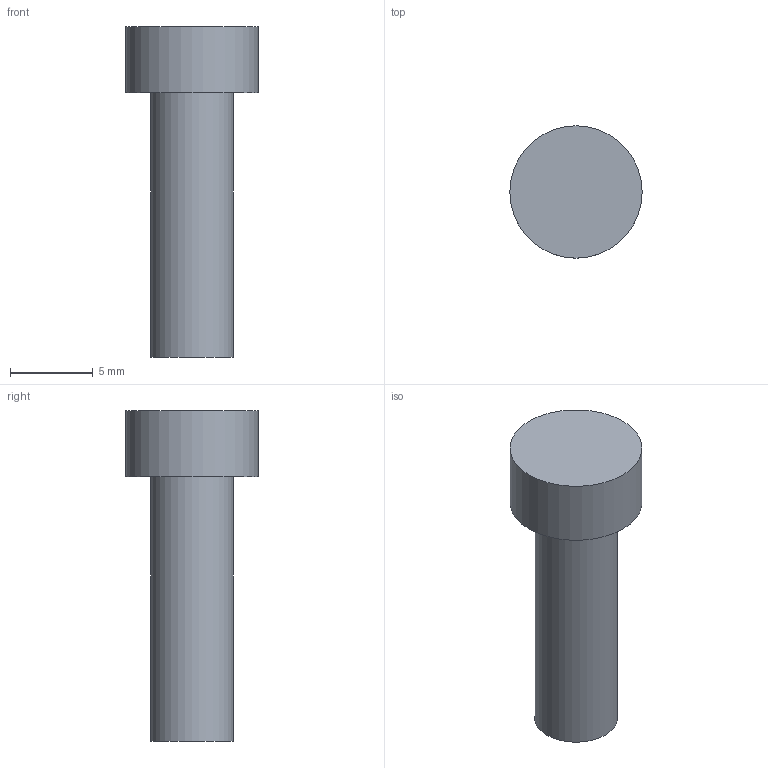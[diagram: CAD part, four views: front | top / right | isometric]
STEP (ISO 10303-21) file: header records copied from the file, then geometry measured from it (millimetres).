
FILE_DESCRIPTION(('FreeCAD Model'),'2;1');
FILE_NAME('Open CASCADE Shape Model','2026-11-20T03:22:07',('FreeCAD'),( 'FreeCAD'),'Open CASCADE STEP processor 7.8','FreeCAD','Unknown');
FILE_SCHEMA(('AUTOMOTIVE_DESIGN { 1 0 10303 214 1 1 1 1 }'));
Length unit declared in the file: millimetre
Products named in the file (1): Open CASCADE STEP translator 7.8 6
Bounding box: 8 x 8 x 20 mm (x, y, z)
Volume: 515.2 mm3; surface area: 452.4 mm2
Topology: 1 solids, 1 shells, 5 faces, 6 edges, 4 vertices
Faces by surface type: plane 3, cylinder 2
Full cylindrical faces by diameter (mm): 5 x1, 8 x1
Entity records: 114 total; most frequent: DIRECTION 22, CARTESIAN_POINT 16, ORIENTED_EDGE 12, AXIS2_PLACEMENT_3D 10, FACE_BOUND 6, EDGE_LOOP 6, EDGE_CURVE 6, ADVANCED_FACE 5
